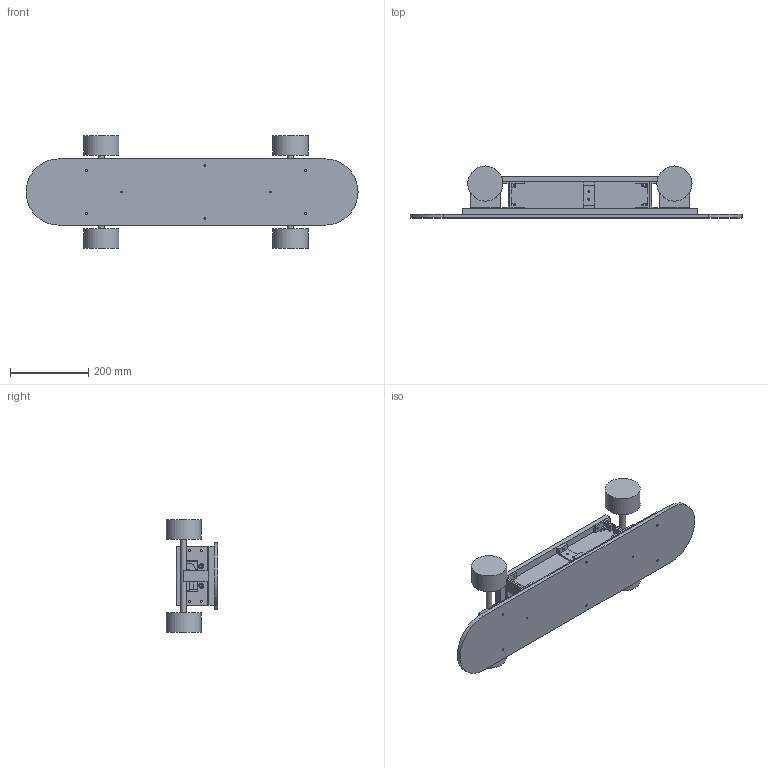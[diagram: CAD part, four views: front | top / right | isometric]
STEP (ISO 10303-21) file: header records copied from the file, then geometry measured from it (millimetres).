
FILE_DESCRIPTION(/* description */ (''),/* implementation_level */ '2;1');
FILE_NAME(/* name */ '/Users/ICER/fablabkyushu/students/180/data/final_project/Skateboard v28.step',/* time_stamp */ '2016-07-08T22:45:17+09:00',/* author */ (''),/* organization */ (''),/* preprocessor_version */ 'ST-DEVELOPER v16.5',/* originating_system */ 'Autodesk Translation Framework v5.1.0.3141',/* authorisation */ '');
FILE_SCHEMA (('AUTOMOTIVE_DESIGN { 1 0 10303 214 3 1 1 }'));
Length unit declared in the file: centimetre
Products named in the file (1): Skateboard v28
Bounding box: 850 x 133 x 289 mm (x, y, z)
Volume: 6158951.5 mm3; surface area: 1209540.9 mm2
Topology: 36 solids, 36 shells, 693 faces, 1858 edges, 1245 vertices
Faces by surface type: plane 479, cylinder 214
Full cylindrical faces by diameter (mm): 3 x75, 5 x100, 8 x3, 10 x3, 13 x6, 15 x2, 30 x1, 90 x4
Entity records: 21424 total; most frequent: CARTESIAN_POINT 3579, DIRECTION 3471, ORIENTED_EDGE 3304, EDGE_CURVE 1651, EDGE_LOOP 1298, VERTEX_POINT 1234, LINE 1219, VECTOR 1219
